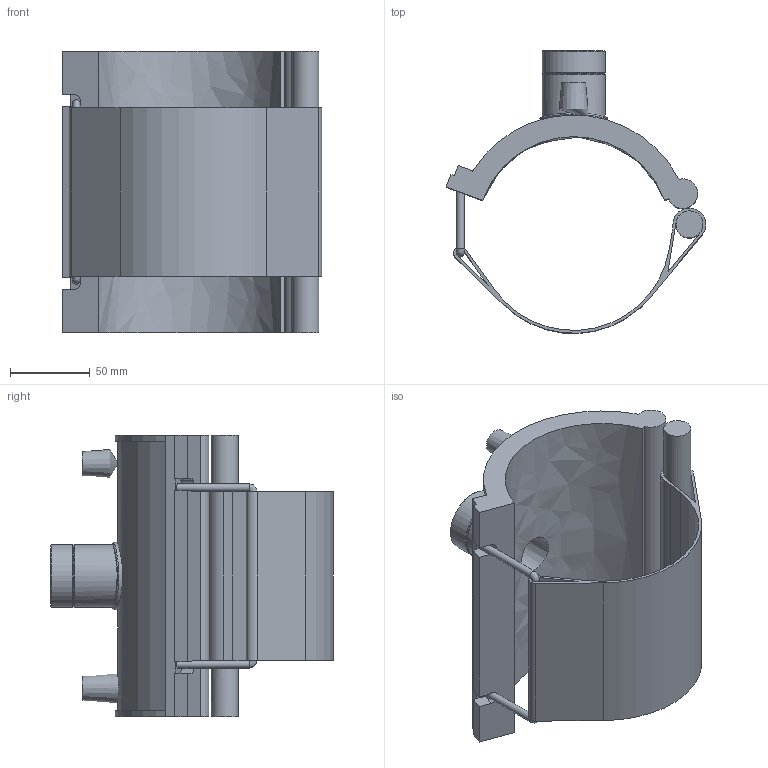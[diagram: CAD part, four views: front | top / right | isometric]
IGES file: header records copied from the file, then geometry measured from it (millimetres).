
Global section: file name: 5938D00304045.ipt; native system: Autodesk Inventor 2019; preprocessor: unknown; author: KIM; date: 20210830.101127; units: inch
Bounding box: 162.55 x 177.07 x 176.02 mm (x, y, z)
Volume: 534780.4 mm3; surface area: 159924 mm2
Topology: 1 solids, 2 shells, 80 faces, 204 edges, 132 vertices
Faces by surface type: plane 44, cylinder 19, revolution 11, cone 5, bspline 1
Full cylindrical faces by diameter (mm): 4 x2, 4.852 x2, 16.889 x1, 38.378 x1, 39.378 x2, 42.407 x1
